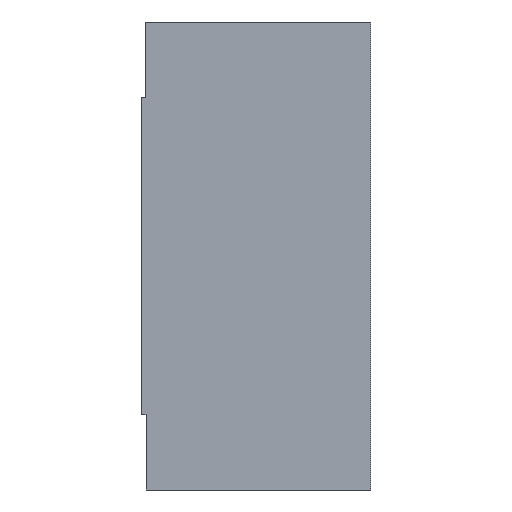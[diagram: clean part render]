
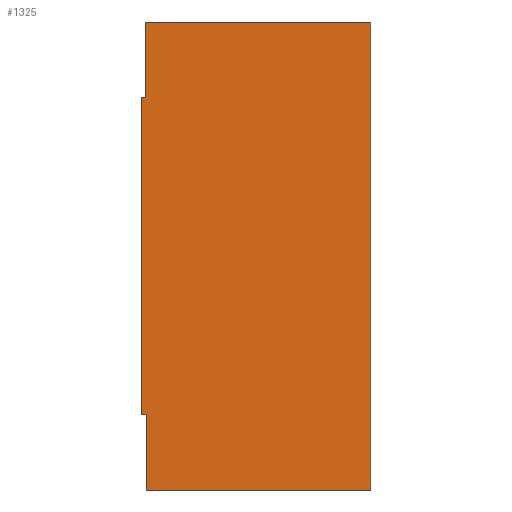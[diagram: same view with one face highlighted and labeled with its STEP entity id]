
A CAD part, left-side view. The second image highlights one B-rep face of the part: STEP entity #1325.
In plain terms, the highlighted planar face has unit normal (-1, 0, 0).
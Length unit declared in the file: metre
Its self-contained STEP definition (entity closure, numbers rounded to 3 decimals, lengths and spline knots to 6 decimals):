
#246=ORIENTED_EDGE('',*,*,#526,.T.);
#247=ORIENTED_EDGE('',*,*,#520,.F.);
#248=ORIENTED_EDGE('',*,*,#531,.T.);
#249=ORIENTED_EDGE('',*,*,#527,.T.);
#250=ORIENTED_EDGE('',*,*,#535,.F.);
#251=ORIENTED_EDGE('',*,*,#536,.T.);
#252=ORIENTED_EDGE('',*,*,#473,.F.);
#253=ORIENTED_EDGE('',*,*,#537,.F.);
#473=EDGE_CURVE('',#636,#637,#777,.T.);
#520=EDGE_CURVE('',#671,#672,#815,.T.);
#526=EDGE_CURVE('',#676,#672,#821,.T.);
#527=EDGE_CURVE('',#677,#678,#822,.T.);
#531=EDGE_CURVE('',#671,#677,#826,.T.);
#535=EDGE_CURVE('',#682,#678,#830,.T.);
#536=EDGE_CURVE('',#682,#637,#831,.T.);
#537=EDGE_CURVE('',#676,#636,#832,.T.);
#636=VERTEX_POINT('',#1977);
#637=VERTEX_POINT('',#1979);
#671=VERTEX_POINT('',#2078);
#672=VERTEX_POINT('',#2079);
#676=VERTEX_POINT('',#2088);
#677=VERTEX_POINT('',#2093);
#678=VERTEX_POINT('',#2094);
#682=VERTEX_POINT('',#2107);
#777=LINE('',#1978,#875);
#815=LINE('',#2077,#913);
#821=LINE('',#2090,#919);
#822=LINE('',#2092,#920);
#826=LINE('',#2101,#924);
#830=LINE('',#2108,#928);
#831=LINE('',#2110,#929);
#832=LINE('',#2111,#930);
#875=VECTOR('',#1567,1.);
#913=VECTOR('',#1659,1.);
#919=VECTOR('',#1667,1.);
#920=VECTOR('',#1670,1.);
#924=VECTOR('',#1676,1.);
#928=VECTOR('',#1682,1.);
#929=VECTOR('',#1685,1.);
#930=VECTOR('',#1686,1.);
#999=EDGE_LOOP('',(#246,#247,#248,#249,#250,#251,#252,#253));
#1135=FACE_BOUND('',#999,.T.);
#1284=PLANE('',#1438);
#1325=ADVANCED_FACE('',(#1135),#1284,.F.);
#1438=AXIS2_PLACEMENT_3D('',#2109,#1683,#1684);
#1567=DIRECTION('',(0.,-1.,0.));
#1659=DIRECTION('',(0.,0.,1.));
#1667=DIRECTION('',(0.,-1.,0.));
#1670=DIRECTION('',(0.,0.,1.));
#1676=DIRECTION('',(0.,-1.,0.));
#1682=DIRECTION('',(0.,-1.,0.));
#1683=DIRECTION('',(1.,0.,0.));
#1684=DIRECTION('',(0.,0.,-1.));
#1685=DIRECTION('',(0.,0.,-1.));
#1686=DIRECTION('',(0.,0.,1.));
#1977=CARTESIAN_POINT('',(0.,0.026,-0.0085));
#1978=CARTESIAN_POINT('',(0.,0.026,-0.0085));
#1979=CARTESIAN_POINT('',(0.,0.0255,-0.0085));
#2077=CARTESIAN_POINT('',(0.,0.02544,-0.053));
#2078=CARTESIAN_POINT('',(0.,0.02544,-0.053));
#2079=CARTESIAN_POINT('',(0.,0.02544,-0.0445));
#2088=CARTESIAN_POINT('',(0.,0.026,-0.0445));
#2090=CARTESIAN_POINT('',(0.,0.026,-0.0445));
#2092=CARTESIAN_POINT('',(0.,0.,0.));
#2093=CARTESIAN_POINT('',(0.,0.,-0.053));
#2094=CARTESIAN_POINT('',(0.,0.,0.));
#2101=CARTESIAN_POINT('',(0.,0.026,-0.053));
#2107=CARTESIAN_POINT('',(0.,0.0255,0.));
#2108=CARTESIAN_POINT('',(0.,0.026,0.));
#2109=CARTESIAN_POINT('',(0.,0.026,0.));
#2110=CARTESIAN_POINT('',(0.,0.0255,0.));
#2111=CARTESIAN_POINT('',(0.,0.026,0.));
